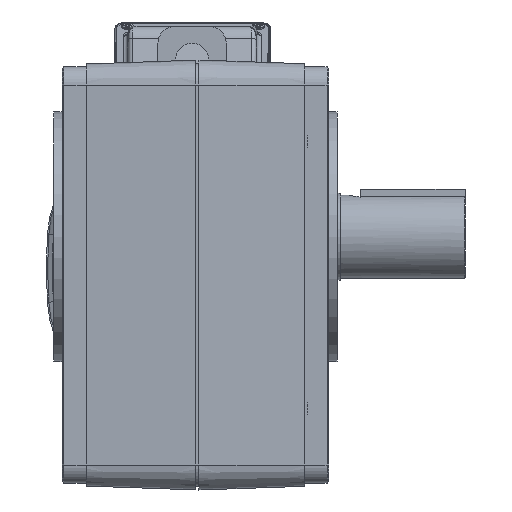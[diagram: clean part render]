
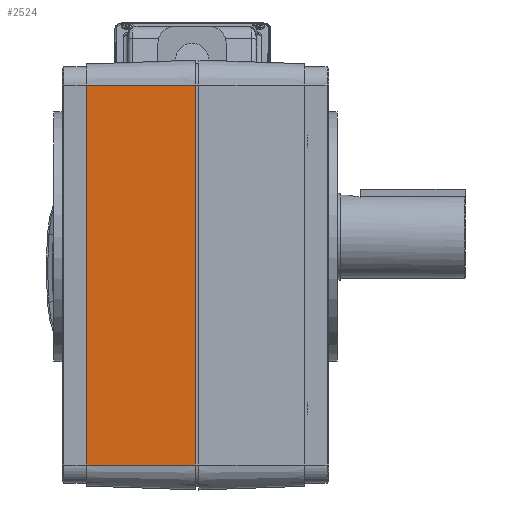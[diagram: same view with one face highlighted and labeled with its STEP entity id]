
A CAD part, left-side view. The second image highlights one B-rep face of the part: STEP entity #2524.
In plain terms, the highlighted planar face has unit normal (-0.999, 0.035, 0).
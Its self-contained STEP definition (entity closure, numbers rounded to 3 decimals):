
#2524 = ADVANCED_FACE( '', ( #6847 ), #6848, .T. );
#6847 = FACE_OUTER_BOUND( '', #14033, .T. );
#6848 = PLANE( '', #14034 );
#14033 = EDGE_LOOP( '', ( #27621, #27622, #27623, #27624 ) );
#14034 = AXIS2_PLACEMENT_3D( '', #27625, #27626, #27627 );
#27621 = ORIENTED_EDGE( '', *, *, #43693, .T. );
#27622 = ORIENTED_EDGE( '', *, *, #43092, .T. );
#27623 = ORIENTED_EDGE( '', *, *, #43694, .F. );
#27624 = ORIENTED_EDGE( '', *, *, #43695, .T. );
#27625 = CARTESIAN_POINT( '', ( -106., 140.571, -23. ) );
#27626 = DIRECTION( '', ( -0.999, 0.035, 0. ) );
#27627 = DIRECTION( '', ( -0.035, -0.999, 0. ) );
#43092 = EDGE_CURVE( '', #50121, #50119, #50122, .T. );
#43693 = EDGE_CURVE( '', #51160, #50121, #51161, .T. );
#43694 = EDGE_CURVE( '', #51162, #50119, #51163, .T. );
#43695 = EDGE_CURVE( '', #51162, #51160, #51164, .T. );
#50119 = VERTEX_POINT( '', #60300 );
#50121 = VERTEX_POINT( '', #60302 );
#50122 = LINE( '', #60303, #60304 );
#51160 = VERTEX_POINT( '', #62109 );
#51161 = LINE( '', #62110, #62111 );
#51162 = VERTEX_POINT( '', #62112 );
#51163 = LINE( '', #62113, #62114 );
#51164 = LINE( '', #62115, #62116 );
#60300 = CARTESIAN_POINT( '', ( -105.93, 142.571, 91. ) );
#60302 = CARTESIAN_POINT( '', ( -105.93, 142.571, -137. ) );
#60303 = CARTESIAN_POINT( '', ( -105.93, 142.571, -23. ) );
#60304 = VECTOR( '', #75394, 1000. );
#62109 = CARTESIAN_POINT( '', ( -103.643, 208.071, -137. ) );
#62110 = CARTESIAN_POINT( '', ( -106., 140.571, -137. ) );
#62111 = VECTOR( '', #76284, 1000. );
#62112 = CARTESIAN_POINT( '', ( -103.643, 208.071, 91. ) );
#62113 = CARTESIAN_POINT( '', ( -106., 140.571, 91. ) );
#62114 = VECTOR( '', #76285, 1000. );
#62115 = CARTESIAN_POINT( '', ( -103.643, 208.071, -137. ) );
#62116 = VECTOR( '', #76286, 1000. );
#75394 = DIRECTION( '', ( 0., 0., 1. ) );
#76284 = DIRECTION( '', ( -0.035, -0.999, 0. ) );
#76285 = DIRECTION( '', ( -0.035, -0.999, 0. ) );
#76286 = DIRECTION( '', ( 0., 0., -1. ) );
